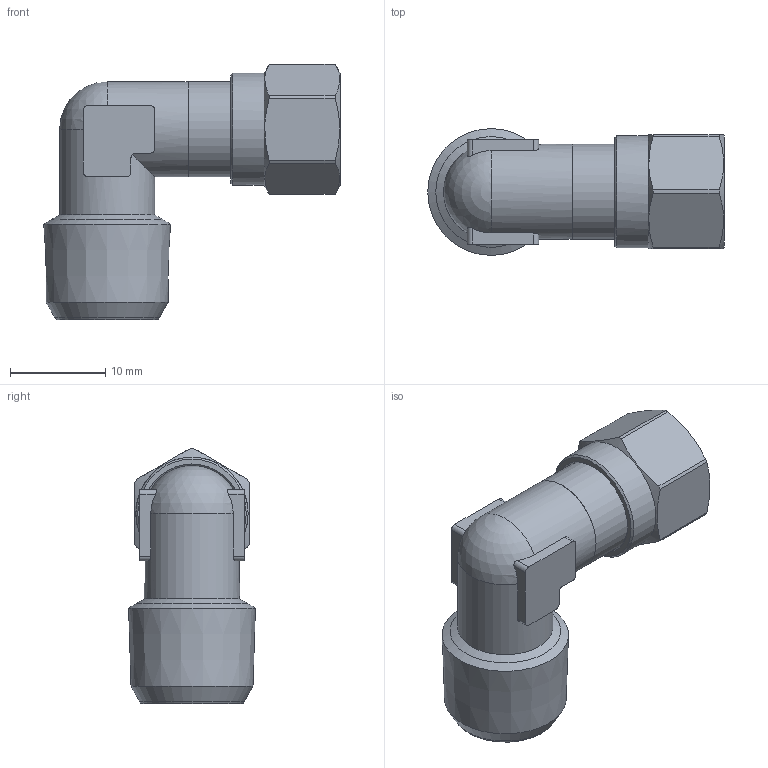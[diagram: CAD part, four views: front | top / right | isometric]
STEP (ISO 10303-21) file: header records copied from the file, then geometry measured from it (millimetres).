
FILE_DESCRIPTION(('Bauteilbeschreibung','HiCAD-Model','HiCAD-STEP-TRANSLATION','Bauteilbeschreibung'),'2;1');
FILE_NAME('B:/ABGLEICH/ZEICHNUNGEN/STEP FÜR INTERNET/STEP/205/92803_205_6_1-4.STP','2011-11-24T10:12:01+00:00',('Konstrukteur'),('Konstrukteur Firma GmbH'),' HiCAD neXt 2008, Step 3.1.1401.2J ','HiCAD neXt 2008','confidential');
FILE_SCHEMA(('AUTOMOTIVE_DESIGN { 1 2 10303 214 0 1 1 1 }'));
Length unit declared in the file: millimetre
Products named in the file (8): A2803_205_6_1_4; A2803; A28030; R 1_4; DIN 13_M10X1; A6802; A68020; DIN0130M10X1
Assembly tree (7 placements, depth 3):
  A2803_205_6_1_4
    A2803
    A28030
      R 1_4
      DIN 13_M10X1
    A6802
    A68020
      DIN0130M10X1
Bounding box: 31.16 x 13.33 x 26.82 mm (x, y, z)
Volume: 2996.6 mm3; surface area: 4601.7 mm2
Topology: 5 solids, 5 shells, 84 faces, 216 edges, 140 vertices
Faces by surface type: cylinder 33, plane 29, cone 21, sphere 1
Full cylindrical faces by diameter (mm): 5 x1, 6 x3, 8 x1, 8.773 x4, 10 x5, 11.8 x1
Entity records: 7734 total; most frequent: CARTESIAN_POINT 4969, DIRECTION 406, ORIENTED_EDGE 334, AXIS2_PLACEMENT_3D 175, EDGE_CURVE 167, COLOUR_RGB 150, PRESENTATION_STYLE_ASSIGNMENT 150, CURVE_STYLE 145
